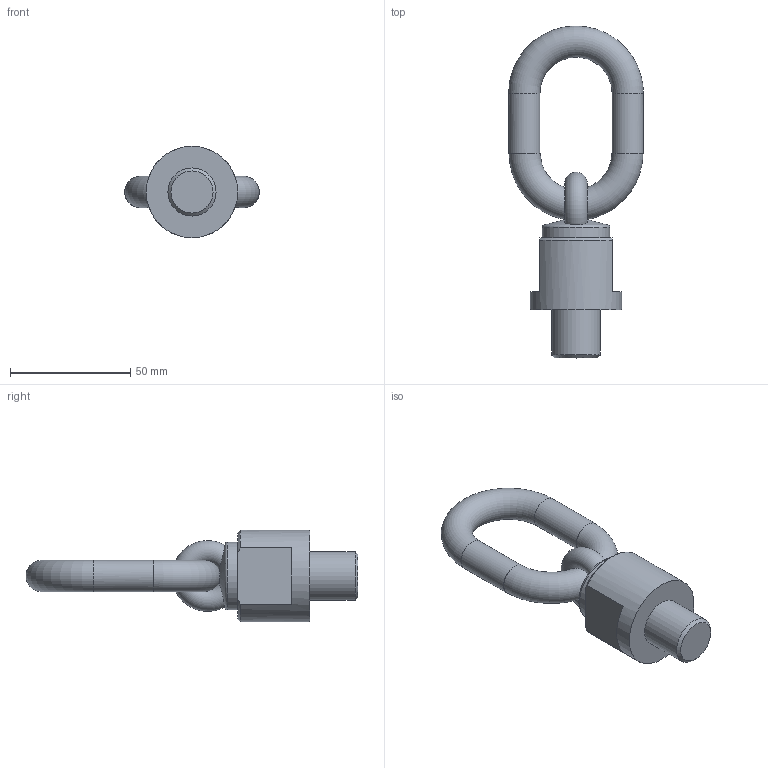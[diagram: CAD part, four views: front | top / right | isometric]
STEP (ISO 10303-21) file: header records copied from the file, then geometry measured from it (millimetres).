
FILE_DESCRIPTION( ( 'STEP AP203' ), '1' );
FILE_NAME( 'p:/temp/worker_18/temp/app_45_0201906261453541800653910e898ce_000000_00_00_000000/format_2/C800X0141620.stp', '2019-06-26T12:53:55', ( '' ), ( '' ), ' ', 'PARTsolutions', ' ' );
FILE_SCHEMA( ( 'CONFIG_CONTROL_DESIGN' ) );
Length unit declared in the file: millimetre
Products named in the file (1): _C800X0141620
Bounding box: 56 x 137.99 x 38 mm (x, y, z)
Volume: 68528.8 mm3; surface area: 15557.4 mm2
Topology: 1 solids, 1 shells, 27 faces, 65 edges, 40 vertices
Faces by surface type: plane 13, torus 5, cylinder 5, cone 4
Full cylindrical faces by diameter (mm): 13 x2, 20 x1, 28.2 x1, 38 x1
Entity records: 1036 total; most frequent: CARTESIAN_POINT 455, DIRECTION 114, ORIENTED_EDGE 94, AXIS2_PLACEMENT_3D 53, EDGE_CURVE 47, EDGE_LOOP 40, FACE_OUTER_BOUND 36, VERTEX_POINT 34
